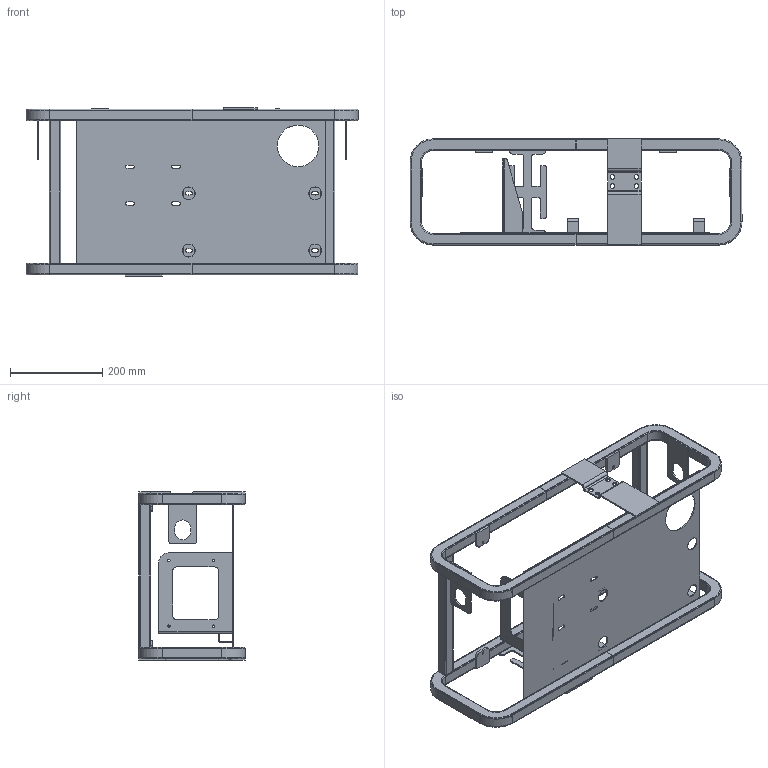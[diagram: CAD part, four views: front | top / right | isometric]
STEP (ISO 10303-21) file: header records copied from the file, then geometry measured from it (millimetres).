
FILE_DESCRIPTION(/* description */ ('Рама'),/* implementation_level */ '2;1');
FILE_NAME(/* name */ '',/* time_stamp */ '2024-10-10T10:19:56+03:00',/* author */ ('igorl'),/* organization */ ('Технотон'),/* preprocessor_version */ 'ST-DEVELOPER v19.2',/* originating_system */ 'Autodesk Inventor 2024',/* authorisation */ '');
FILE_SCHEMA (('CONFIG_CONTROL_DESIGN'));
Length unit declared in the file: millimetre
Products named in the file (13): ATS5.30.00.000.1 Рама; ATS5.30.00.001.2; ATS5.30.00.002; ATS5.30.00.003; ATS5.30.00.004; ATS5.30.00.005; ATS5.30.00.006; ATS5.30.00.006_1; ATS5.30.00.006_2; ATS5.30.00.006_3; ATS5.30.00.007; ATS5.30.00.009; ATS5.30.00.008
Assembly tree (18 placements, depth 2):
  ATS5.30.00.000.1 Рама
    ATS5.30.00.001.2
    ATS5.30.00.002
    ATS5.30.00.003
    ATS5.30.00.004  x2
    ATS5.30.00.005  x4
    ATS5.30.00.006
    ATS5.30.00.006_1
    ATS5.30.00.006_2
    ATS5.30.00.006_3
    ATS5.30.00.007  x2
    ATS5.30.00.008  x2
    ATS5.30.00.009
Bounding box: 720 x 230 x 366 mm (x, y, z)
Volume: 1139836.2 mm3; surface area: 1292846.5 mm2
Topology: 18 solids, 18 shells, 592 faces, 1468 edges, 913 vertices
Faces by surface type: plane 275, cylinder 249, torus 64, cone 4
Full cylindrical faces by diameter (mm): 4.917 x4, 5 x4, 10 x4, 28 x4, 90 x1
Entity records: 15321 total; most frequent: DIRECTION 2776, CARTESIAN_POINT 2509, ORIENTED_EDGE 2452, EDGE_CURVE 1226, AXIS2_PLACEMENT_3D 1024, VERTEX_POINT 756, LINE 728, VECTOR 728
